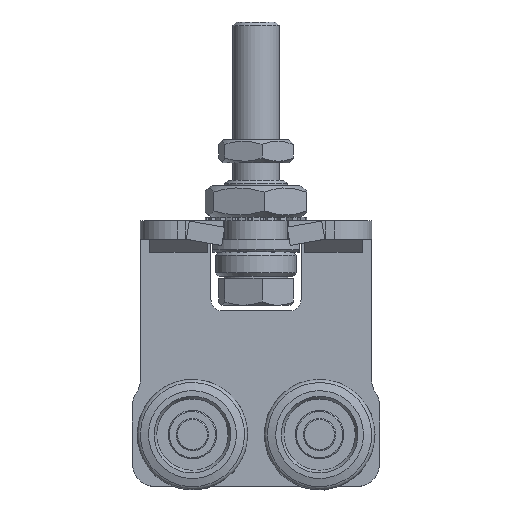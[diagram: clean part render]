
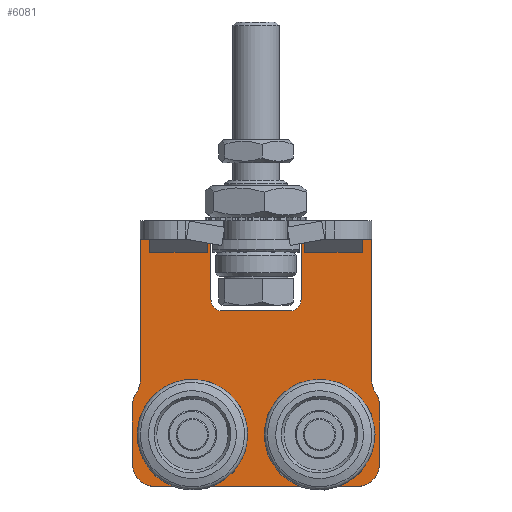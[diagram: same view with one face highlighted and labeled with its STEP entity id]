
A CAD part, top view. The second image highlights one B-rep face of the part: STEP entity #6081.
In plain terms, the highlighted planar face has unit normal (0, 0, 1).
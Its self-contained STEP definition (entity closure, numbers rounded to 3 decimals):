
#192=FACE_BOUND('',#1174,.T.);
#193=FACE_BOUND('',#1175,.T.);
#259=CIRCLE('',#6433,6.15);
#261=CIRCLE('',#6437,9.1);
#263=CIRCLE('',#6441,6.15);
#265=CIRCLE('',#6445,9.1);
#267=CIRCLE('',#6449,10.);
#269=CIRCLE('',#6452,10.);
#271=CIRCLE('',#6456,10.);
#273=CIRCLE('',#6460,10.);
#275=CIRCLE('',#6464,10.);
#277=CIRCLE('',#6467,10.);
#279=CIRCLE('',#6475,5.);
#281=CIRCLE('',#6479,5.);
#807=FACE_OUTER_BOUND('',#1173,.T.);
#1173=EDGE_LOOP('',(#4290,#4291,#4292,#4293,#4294,#4295,#4296,#4297,#4298,
#4299,#4300,#4301,#4302,#4303,#4304,#4305,#4306,#4307,#4308,#4309,#4310,
#4311));
#1174=EDGE_LOOP('',(#4312,#4313,#4314,#4315));
#1175=EDGE_LOOP('',(#4316,#4317,#4318,#4319));
#1589=LINE('',#9114,#2103);
#1594=LINE('',#9128,#2108);
#1597=LINE('',#9138,#2111);
#1602=LINE('',#9152,#2116);
#1605=LINE('',#9162,#2119);
#1611=LINE('',#9182,#2125);
#1615=LINE('',#9194,#2129);
#1619=LINE('',#9206,#2133);
#1624=LINE('',#9224,#2138);
#1627=LINE('',#9230,#2141);
#1630=LINE('',#9236,#2144);
#1633=LINE('',#9242,#2147);
#1636=LINE('',#9248,#2150);
#1640=LINE('',#9260,#2154);
#1644=LINE('',#9272,#2158);
#1647=LINE('',#9278,#2161);
#1650=LINE('',#9284,#2164);
#1653=LINE('',#9289,#2167);
#2103=VECTOR('',#7193,3.36);
#2108=VECTOR('',#7206,3.36);
#2111=VECTOR('',#7217,3.36);
#2116=VECTOR('',#7230,3.36);
#2119=VECTOR('',#7241,60.697);
#2125=VECTOR('',#7261,25.);
#2129=VECTOR('',#7273,87.);
#2133=VECTOR('',#7285,25.);
#2138=VECTOR('',#7304,60.697);
#2141=VECTOR('',#7309,3.7);
#2144=VECTOR('',#7314,8.);
#2147=VECTOR('',#7319,26.8);
#2150=VECTOR('',#7324,34.);
#2154=VECTOR('',#7336,29.);
#2158=VECTOR('',#7348,34.);
#2161=VECTOR('',#7353,26.8);
#2164=VECTOR('',#7358,8.);
#2167=VECTOR('',#7363,3.7);
#2605=VERTEX_POINT('',#9112);
#2606=VERTEX_POINT('',#9113);
#2609=VERTEX_POINT('',#9121);
#2611=VERTEX_POINT('',#9127);
#2613=VERTEX_POINT('',#9136);
#2614=VERTEX_POINT('',#9137);
#2617=VERTEX_POINT('',#9145);
#2619=VERTEX_POINT('',#9151);
#2621=VERTEX_POINT('',#9160);
#2622=VERTEX_POINT('',#9161);
#2625=VERTEX_POINT('',#9169);
#2627=VERTEX_POINT('',#9175);
#2629=VERTEX_POINT('',#9181);
#2631=VERTEX_POINT('',#9187);
#2633=VERTEX_POINT('',#9193);
#2635=VERTEX_POINT('',#9199);
#2637=VERTEX_POINT('',#9205);
#2639=VERTEX_POINT('',#9211);
#2641=VERTEX_POINT('',#9217);
#2643=VERTEX_POINT('',#9223);
#2645=VERTEX_POINT('',#9229);
#2647=VERTEX_POINT('',#9235);
#2649=VERTEX_POINT('',#9241);
#2651=VERTEX_POINT('',#9247);
#2653=VERTEX_POINT('',#9253);
#2655=VERTEX_POINT('',#9259);
#2657=VERTEX_POINT('',#9265);
#2659=VERTEX_POINT('',#9271);
#2661=VERTEX_POINT('',#9277);
#2663=VERTEX_POINT('',#9283);
#3218=EDGE_CURVE('',#2605,#2606,#1589,.T.);
#3222=EDGE_CURVE('',#2606,#2609,#259,.T.);
#3225=EDGE_CURVE('',#2609,#2611,#1594,.T.);
#3228=EDGE_CURVE('',#2611,#2605,#261,.T.);
#3230=EDGE_CURVE('',#2613,#2614,#1597,.T.);
#3234=EDGE_CURVE('',#2614,#2617,#263,.T.);
#3237=EDGE_CURVE('',#2617,#2619,#1602,.T.);
#3240=EDGE_CURVE('',#2619,#2613,#265,.T.);
#3242=EDGE_CURVE('',#2621,#2622,#1605,.T.);
#3246=EDGE_CURVE('',#2622,#2625,#267,.T.);
#3249=EDGE_CURVE('',#2625,#2627,#269,.T.);
#3252=EDGE_CURVE('',#2627,#2629,#1611,.T.);
#3255=EDGE_CURVE('',#2629,#2631,#271,.T.);
#3258=EDGE_CURVE('',#2631,#2633,#1615,.T.);
#3261=EDGE_CURVE('',#2633,#2635,#273,.T.);
#3264=EDGE_CURVE('',#2635,#2637,#1619,.T.);
#3267=EDGE_CURVE('',#2637,#2639,#275,.T.);
#3270=EDGE_CURVE('',#2639,#2641,#277,.T.);
#3273=EDGE_CURVE('',#2641,#2643,#1624,.T.);
#3276=EDGE_CURVE('',#2643,#2645,#1627,.T.);
#3279=EDGE_CURVE('',#2645,#2647,#1630,.T.);
#3282=EDGE_CURVE('',#2647,#2649,#1633,.T.);
#3285=EDGE_CURVE('',#2649,#2651,#1636,.T.);
#3288=EDGE_CURVE('',#2651,#2653,#279,.T.);
#3291=EDGE_CURVE('',#2653,#2655,#1640,.T.);
#3294=EDGE_CURVE('',#2655,#2657,#281,.T.);
#3297=EDGE_CURVE('',#2657,#2659,#1644,.T.);
#3300=EDGE_CURVE('',#2659,#2661,#1647,.T.);
#3303=EDGE_CURVE('',#2661,#2663,#1650,.T.);
#3306=EDGE_CURVE('',#2663,#2621,#1653,.T.);
#4290=ORIENTED_EDGE('',*,*,#3242,.F.);
#4291=ORIENTED_EDGE('',*,*,#3306,.F.);
#4292=ORIENTED_EDGE('',*,*,#3303,.F.);
#4293=ORIENTED_EDGE('',*,*,#3300,.F.);
#4294=ORIENTED_EDGE('',*,*,#3297,.F.);
#4295=ORIENTED_EDGE('',*,*,#3294,.F.);
#4296=ORIENTED_EDGE('',*,*,#3291,.F.);
#4297=ORIENTED_EDGE('',*,*,#3288,.F.);
#4298=ORIENTED_EDGE('',*,*,#3285,.F.);
#4299=ORIENTED_EDGE('',*,*,#3282,.F.);
#4300=ORIENTED_EDGE('',*,*,#3279,.F.);
#4301=ORIENTED_EDGE('',*,*,#3276,.F.);
#4302=ORIENTED_EDGE('',*,*,#3273,.F.);
#4303=ORIENTED_EDGE('',*,*,#3270,.F.);
#4304=ORIENTED_EDGE('',*,*,#3267,.F.);
#4305=ORIENTED_EDGE('',*,*,#3264,.F.);
#4306=ORIENTED_EDGE('',*,*,#3261,.F.);
#4307=ORIENTED_EDGE('',*,*,#3258,.F.);
#4308=ORIENTED_EDGE('',*,*,#3255,.F.);
#4309=ORIENTED_EDGE('',*,*,#3252,.F.);
#4310=ORIENTED_EDGE('',*,*,#3249,.F.);
#4311=ORIENTED_EDGE('',*,*,#3246,.F.);
#4312=ORIENTED_EDGE('',*,*,#3218,.T.);
#4313=ORIENTED_EDGE('',*,*,#3222,.T.);
#4314=ORIENTED_EDGE('',*,*,#3225,.T.);
#4315=ORIENTED_EDGE('',*,*,#3228,.T.);
#4316=ORIENTED_EDGE('',*,*,#3230,.T.);
#4317=ORIENTED_EDGE('',*,*,#3234,.T.);
#4318=ORIENTED_EDGE('',*,*,#3237,.T.);
#4319=ORIENTED_EDGE('',*,*,#3240,.T.);
#5879=PLANE('',#6486);
#6081=ADVANCED_FACE('',(#807,#192,#193),#5879,.T.);
#6433=AXIS2_PLACEMENT_3D('',#9122,#7199,#7200);
#6437=AXIS2_PLACEMENT_3D('',#9133,#7211,#7212);
#6441=AXIS2_PLACEMENT_3D('',#9146,#7223,#7224);
#6445=AXIS2_PLACEMENT_3D('',#9157,#7235,#7236);
#6449=AXIS2_PLACEMENT_3D('',#9170,#7247,#7248);
#6452=AXIS2_PLACEMENT_3D('',#9176,#7254,#7255);
#6456=AXIS2_PLACEMENT_3D('',#9188,#7266,#7267);
#6460=AXIS2_PLACEMENT_3D('',#9200,#7278,#7279);
#6464=AXIS2_PLACEMENT_3D('',#9212,#7290,#7291);
#6467=AXIS2_PLACEMENT_3D('',#9218,#7297,#7298);
#6475=AXIS2_PLACEMENT_3D('',#9254,#7329,#7330);
#6479=AXIS2_PLACEMENT_3D('',#9266,#7341,#7342);
#6486=AXIS2_PLACEMENT_3D('',#9292,#7367,#7368);
#7193=DIRECTION('',(0.866,0.5,0.));
#7199=DIRECTION('center_axis',(0.,0.,-1.));
#7200=DIRECTION('ref_axis',(0.808,-0.589,0.));
#7206=DIRECTION('',(0.866,-0.5,0.));
#7211=DIRECTION('center_axis',(0.,0.,-1.));
#7212=DIRECTION('ref_axis',(-0.866,-0.5,0.));
#7217=DIRECTION('',(0.866,0.5,0.));
#7223=DIRECTION('center_axis',(0.,0.,-1.));
#7224=DIRECTION('ref_axis',(0.808,-0.589,0.));
#7230=DIRECTION('',(0.866,-0.5,0.));
#7235=DIRECTION('center_axis',(0.,0.,-1.));
#7236=DIRECTION('ref_axis',(-0.866,-0.5,0.));
#7241=DIRECTION('',(0.,1.,0.));
#7247=DIRECTION('center_axis',(0.,0.,1.));
#7248=DIRECTION('ref_axis',(-1.,0.,0.));
#7254=DIRECTION('center_axis',(0.,0.,-1.));
#7255=DIRECTION('ref_axis',(-1.,0.,0.));
#7261=DIRECTION('',(0.,1.,0.));
#7266=DIRECTION('center_axis',(0.,0.,-1.));
#7267=DIRECTION('ref_axis',(0.,1.,0.));
#7273=DIRECTION('',(1.,0.,0.));
#7278=DIRECTION('center_axis',(0.,0.,-1.));
#7279=DIRECTION('ref_axis',(1.,0.,0.));
#7285=DIRECTION('',(0.,-1.,0.));
#7290=DIRECTION('center_axis',(0.,0.,-1.));
#7291=DIRECTION('ref_axis',(0.825,-0.565,0.));
#7297=DIRECTION('center_axis',(0.,0.,1.));
#7298=DIRECTION('ref_axis',(0.825,-0.565,0.));
#7304=DIRECTION('',(0.,-1.,0.));
#7309=DIRECTION('',(-1.,0.,0.));
#7314=DIRECTION('',(0.,-1.,0.));
#7319=DIRECTION('',(-1.,0.,0.));
#7324=DIRECTION('',(0.,1.,0.));
#7329=DIRECTION('center_axis',(0.,0.,1.));
#7330=DIRECTION('ref_axis',(-1.,0.,0.));
#7336=DIRECTION('',(-1.,0.,0.));
#7341=DIRECTION('center_axis',(0.,0.,1.));
#7342=DIRECTION('ref_axis',(0.,-1.,0.));
#7348=DIRECTION('',(0.,-1.,0.));
#7353=DIRECTION('',(-1.,0.,0.));
#7358=DIRECTION('',(0.,1.,0.));
#7363=DIRECTION('',(-1.,0.,0.));
#7367=DIRECTION('center_axis',(0.,0.,1.));
#7368=DIRECTION('ref_axis',(1.,0.,0.));
#9112=CARTESIAN_POINT('',(19.62,-5.301,8.));
#9113=CARTESIAN_POINT('',(22.529,-3.622,8.));
#9114=CARTESIAN_POINT('',(5.233,-13.608,8.));
#9121=CARTESIAN_POINT('',(32.471,-3.622,8.));
#9122=CARTESIAN_POINT('Origin',(27.5,0.,8.));
#9127=CARTESIAN_POINT('',(35.38,-5.301,8.));
#9128=CARTESIAN_POINT('',(27.687,-0.86,8.));
#9133=CARTESIAN_POINT('Origin',(27.5,-0.75,8.));
#9136=CARTESIAN_POINT('',(-35.38,-5.301,8.));
#9137=CARTESIAN_POINT('',(-32.471,-3.622,8.));
#9138=CARTESIAN_POINT('',(-29.142,-1.7,8.));
#9145=CARTESIAN_POINT('',(-22.529,-3.622,8.));
#9146=CARTESIAN_POINT('Origin',(-27.5,0.,8.));
#9151=CARTESIAN_POINT('',(-19.62,-5.301,8.));
#9152=CARTESIAN_POINT('',(-6.688,-12.768,8.));
#9157=CARTESIAN_POINT('Origin',(-27.5,-0.75,8.));
#9160=CARTESIAN_POINT('',(-50.,-84.5,8.));
#9161=CARTESIAN_POINT('',(-50.,-23.803,8.));
#9162=CARTESIAN_POINT('',(-50.,-23.803,8.));
#9169=CARTESIAN_POINT('',(-51.75,-18.151,8.));
#9170=CARTESIAN_POINT('Origin',(-60.,-23.803,8.));
#9175=CARTESIAN_POINT('',(-53.5,-12.5,8.));
#9176=CARTESIAN_POINT('Origin',(-43.5,-12.5,8.));
#9181=CARTESIAN_POINT('',(-53.5,12.5,8.));
#9182=CARTESIAN_POINT('',(-53.5,12.5,8.));
#9187=CARTESIAN_POINT('',(-43.5,22.5,8.));
#9188=CARTESIAN_POINT('Origin',(-43.5,12.5,8.));
#9193=CARTESIAN_POINT('',(43.5,22.5,8.));
#9194=CARTESIAN_POINT('',(43.5,22.5,8.));
#9199=CARTESIAN_POINT('',(53.5,12.5,8.));
#9200=CARTESIAN_POINT('Origin',(43.5,12.5,8.));
#9205=CARTESIAN_POINT('',(53.5,-12.5,8.));
#9206=CARTESIAN_POINT('',(53.5,-12.5,8.));
#9211=CARTESIAN_POINT('',(51.75,-18.151,8.));
#9212=CARTESIAN_POINT('Origin',(43.5,-12.5,8.));
#9217=CARTESIAN_POINT('',(50.,-23.803,8.));
#9218=CARTESIAN_POINT('Origin',(60.,-23.803,8.));
#9223=CARTESIAN_POINT('',(50.,-84.5,8.));
#9224=CARTESIAN_POINT('',(50.,-84.5,8.));
#9229=CARTESIAN_POINT('',(46.3,-84.5,8.));
#9230=CARTESIAN_POINT('',(46.3,-84.5,8.));
#9235=CARTESIAN_POINT('',(46.3,-92.5,8.));
#9236=CARTESIAN_POINT('',(46.3,-92.5,8.));
#9241=CARTESIAN_POINT('',(19.5,-92.5,8.));
#9242=CARTESIAN_POINT('',(19.5,-92.5,8.));
#9247=CARTESIAN_POINT('',(19.5,-58.5,8.));
#9248=CARTESIAN_POINT('',(19.5,-58.5,8.));
#9253=CARTESIAN_POINT('',(14.5,-53.5,8.));
#9254=CARTESIAN_POINT('Origin',(14.5,-58.5,8.));
#9259=CARTESIAN_POINT('',(-14.5,-53.5,8.));
#9260=CARTESIAN_POINT('',(-14.5,-53.5,8.));
#9265=CARTESIAN_POINT('',(-19.5,-58.5,8.));
#9266=CARTESIAN_POINT('Origin',(-14.5,-58.5,8.));
#9271=CARTESIAN_POINT('',(-19.5,-92.5,8.));
#9272=CARTESIAN_POINT('',(-19.5,-92.5,8.));
#9277=CARTESIAN_POINT('',(-46.3,-92.5,8.));
#9278=CARTESIAN_POINT('',(-46.3,-92.5,8.));
#9283=CARTESIAN_POINT('',(-46.3,-84.5,8.));
#9284=CARTESIAN_POINT('',(-46.3,-84.5,8.));
#9289=CARTESIAN_POINT('',(-50.,-84.5,8.));
#9292=CARTESIAN_POINT('Origin',(0.,-37.77,
8.));
